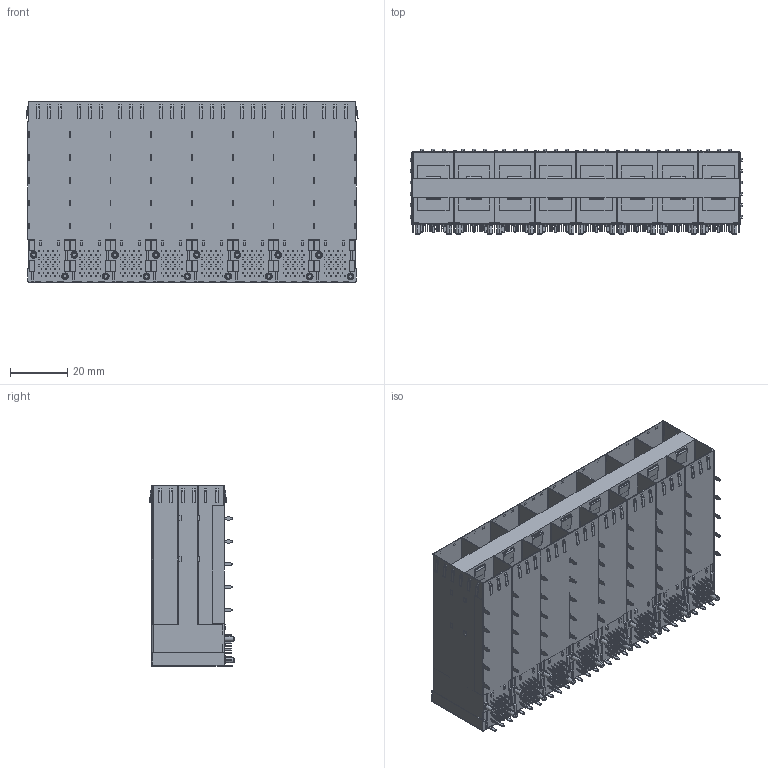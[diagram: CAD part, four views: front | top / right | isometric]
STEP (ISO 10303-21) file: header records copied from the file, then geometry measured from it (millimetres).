
FILE_DESCRIPTION (( 'STEP AP203' ), '1' );
FILE_NAME ('SFP 2X8 无月牙 无灯（3D-20221031）.STEP', '2022-10-31T01:59:04', ( '桑三博客' ), ( 'Www.SangSan.Cn' ), 'SwSTEP 2.0', 'SolidWorks 2018', '' );
FILE_SCHEMA (( 'CONFIG_CONTROL_DESIGN' ));
Products named in the file (1): SFP 2X8 无月牙 无灯（3D-20221031）
Bounding box: 116.05 x 29.8 x 63.25 mm (x, y, z)
Volume: 92925.4 mm3; surface area: 63984.2 mm2
Topology: 1 solids, 1 shells, 4542 faces, 12046 edges, 8006 vertices
Faces by surface type: plane 3462, cylinder 1014, cone 64, sphere 2
Entity records: 139965 total; most frequent: CARTESIAN_POINT 24593, ORIENTED_EDGE 24088, DIRECTION 23222, EDGE_CURVE 12044, LINE 9952, VECTOR 9952, VERTEX_POINT 8006, AXIS2_PLACEMENT_3D 6635
